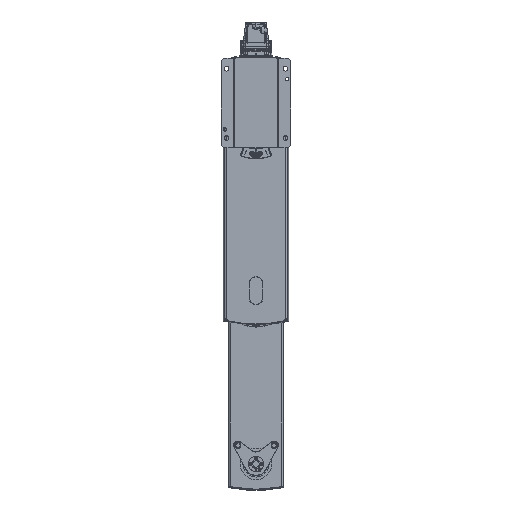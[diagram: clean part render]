
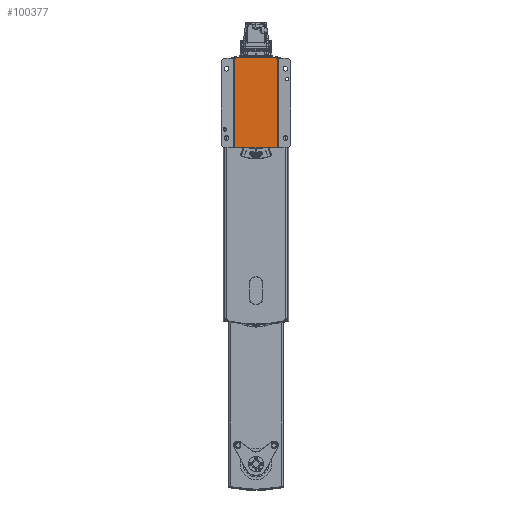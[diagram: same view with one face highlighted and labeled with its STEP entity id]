
A CAD part, front view. The second image highlights one B-rep face of the part: STEP entity #100377.
In plain terms, the highlighted planar face has unit normal (0, -1, 0).
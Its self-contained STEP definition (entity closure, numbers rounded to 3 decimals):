
#15321 = DIRECTION ( 'NONE',  ( 1., 0., 0. ) ) ;
#16397 = VECTOR ( 'NONE', #46116, 1000. ) ;
#23068 = VERTEX_POINT ( 'NONE', #140991 ) ;
#29632 = VECTOR ( 'NONE', #211095, 1000. ) ;
#30017 = CARTESIAN_POINT ( 'NONE',  ( 65., -17., 170. ) ) ;
#37113 = VECTOR ( 'NONE', #196638, 1000. ) ;
#37655 = ORIENTED_EDGE ( 'NONE', *, *, #127752, .F. ) ;
#44541 = LINE ( 'NONE', #151035, #37113 ) ;
#46116 = DIRECTION ( 'NONE',  ( 1., 0., 0. ) ) ;
#46685 = DIRECTION ( 'NONE',  ( 0., 1., 0. ) ) ;
#48832 = CARTESIAN_POINT ( 'NONE',  ( -100., -17., -87.5 ) ) ;
#48998 = VERTEX_POINT ( 'NONE', #240406 ) ;
#50238 = CARTESIAN_POINT ( 'NONE',  ( 62., -17., 170. ) ) ;
#55477 = CARTESIAN_POINT ( 'NONE',  ( 65., -17., 170. ) ) ;
#61807 = CARTESIAN_POINT ( 'NONE',  ( 60., -17., 170. ) ) ;
#68247 = LINE ( 'NONE', #48832, #16397 ) ;
#68708 = CARTESIAN_POINT ( 'NONE',  ( -62., -17., 170. ) ) ;
#69665 = LINE ( 'NONE', #50238, #217912 ) ;
#77056 = AXIS2_PLACEMENT_3D ( 'NONE', #30017, #46685, #154562 ) ;
#78844 = DIRECTION ( 'NONE',  ( 0., 0., -1. ) ) ;
#79857 = DIRECTION ( 'NONE',  ( 1., 0., 0. ) ) ;
#83763 = LINE ( 'NONE', #168187, #29632 ) ;
#84586 = ORIENTED_EDGE ( 'NONE', *, *, #270791, .F. ) ;
#88532 = VECTOR ( 'NONE', #78844, 1000. ) ;
#90894 = CARTESIAN_POINT ( 'NONE',  ( 60., -17., 172. ) ) ;
#93760 = VERTEX_POINT ( 'NONE', #90894 ) ;
#95087 = ORIENTED_EDGE ( 'NONE', *, *, #238709, .F. ) ;
#96334 = VECTOR ( 'NONE', #256156, 1000. ) ;
#98238 = LINE ( 'NONE', #267049, #88532 ) ;
#99242 = VECTOR ( 'NONE', #79857, 1000. ) ;
#100377 = ADVANCED_FACE ( 'NONE', ( #136490 ), #131029, .F. ) ;
#117913 = ORIENTED_EDGE ( 'NONE', *, *, #226724, .F. ) ;
#120197 = ORIENTED_EDGE ( 'NONE', *, *, #157527, .F. ) ;
#127752 = EDGE_CURVE ( 'NONE', #93760, #162098, #98238, .T. ) ;
#131029 = PLANE ( 'NONE',  #77056 ) ;
#135933 = ORIENTED_EDGE ( 'NONE', *, *, #265908, .T. ) ;
#136490 = FACE_OUTER_BOUND ( 'NONE', #182682, .T. ) ;
#140991 = CARTESIAN_POINT ( 'NONE',  ( -62., -17., -87.5 ) ) ;
#146746 = EDGE_CURVE ( 'NONE', #193291, #48998, #69665, .T. ) ;
#151035 = CARTESIAN_POINT ( 'NONE',  ( 65., -17., 172. ) ) ;
#154562 = DIRECTION ( 'NONE',  ( 0., 0., 1. ) ) ;
#157527 = EDGE_CURVE ( 'NONE', #23068, #185943, #83763, .T. ) ;
#162098 = VERTEX_POINT ( 'NONE', #61807 ) ;
#167624 = LINE ( 'NONE', #210531, #96334 ) ;
#168187 = CARTESIAN_POINT ( 'NONE',  ( -62., -17., 170. ) ) ;
#171287 = CARTESIAN_POINT ( 'NONE',  ( 62., -17., 170. ) ) ;
#173473 = DIRECTION ( 'NONE',  ( 0., 0., -1. ) ) ;
#181663 = CARTESIAN_POINT ( 'NONE',  ( -60., -17., 170. ) ) ;
#182682 = EDGE_LOOP ( 'NONE', ( #192548, #117913, #37655, #216764, #84586, #95087, #120197, #135933 ) ) ;
#185943 = VERTEX_POINT ( 'NONE', #68708 ) ;
#192548 = ORIENTED_EDGE ( 'NONE', *, *, #146746, .F. ) ;
#193291 = VERTEX_POINT ( 'NONE', #171287 ) ;
#196638 = DIRECTION ( 'NONE',  ( 1., 0., 0. ) ) ;
#205814 = LINE ( 'NONE', #269460, #99242 ) ;
#207753 = VERTEX_POINT ( 'NONE', #181663 ) ;
#207913 = EDGE_CURVE ( 'NONE', #272451, #93760, #44541, .T. ) ;
#210531 = CARTESIAN_POINT ( 'NONE',  ( -60., -17., 170. ) ) ;
#211095 = DIRECTION ( 'NONE',  ( 0., 0., 1. ) ) ;
#216764 = ORIENTED_EDGE ( 'NONE', *, *, #207913, .F. ) ;
#217912 = VECTOR ( 'NONE', #173473, 1000. ) ;
#226724 = EDGE_CURVE ( 'NONE', #162098, #193291, #205814, .T. ) ;
#236490 = CARTESIAN_POINT ( 'NONE',  ( -60., -17., 172. ) ) ;
#238709 = EDGE_CURVE ( 'NONE', #185943, #207753, #245062, .T. ) ;
#240406 = CARTESIAN_POINT ( 'NONE',  ( 62., -17., -87.5 ) ) ;
#243014 = VECTOR ( 'NONE', #15321, 1000. ) ;
#245062 = LINE ( 'NONE', #55477, #243014 ) ;
#256156 = DIRECTION ( 'NONE',  ( 0., 0., 1. ) ) ;
#265908 = EDGE_CURVE ( 'NONE', #23068, #48998, #68247, .T. ) ;
#267049 = CARTESIAN_POINT ( 'NONE',  ( 60., -17., 170. ) ) ;
#269460 = CARTESIAN_POINT ( 'NONE',  ( 65., -17., 170. ) ) ;
#270791 = EDGE_CURVE ( 'NONE', #207753, #272451, #167624, .T. ) ;
#272451 = VERTEX_POINT ( 'NONE', #236490 ) ;
